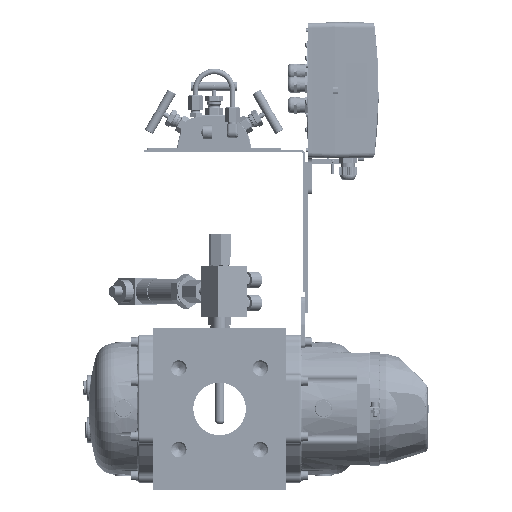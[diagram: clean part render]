
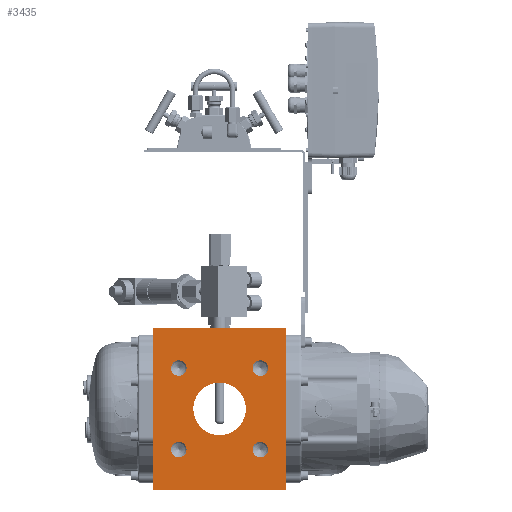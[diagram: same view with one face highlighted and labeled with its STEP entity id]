
A CAD part, front view. The second image highlights one B-rep face of the part: STEP entity #3435.
In plain terms, the highlighted planar face has unit normal (0, -1, 0).
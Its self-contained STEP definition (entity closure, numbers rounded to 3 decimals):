
#3435=ADVANCED_FACE('',(#281968,#281970,#281972,#281974,#281976,#281978),#281980,
.T.);
#281968=FACE_BOUND('',#281969,.T.);
#281969=EDGE_LOOP('',(#561739,#561740,#561741,#561742));
#281970=FACE_BOUND('',#281971,.T.);
#281971=EDGE_LOOP('',(#561743));
#281972=FACE_BOUND('',#281973,.T.);
#281973=EDGE_LOOP('',(#561744));
#281974=FACE_BOUND('',#281975,.T.);
#281975=EDGE_LOOP('',(#561745));
#281976=FACE_BOUND('',#281977,.T.);
#281977=EDGE_LOOP('',(#561746));
#281978=FACE_BOUND('',#281979,.T.);
#281979=EDGE_LOOP('',(#561747));
#281980=PLANE('',#281981);
#281981=AXIS2_PLACEMENT_3D('',#281982,#281983,#281984);
#281982=CARTESIAN_POINT('',(-72.5,-85.5,88.));
#281983=DIRECTION('',(0.,-1.,0.));
#281984=DIRECTION('',(0.,0.,-1.));
#561739=ORIENTED_EDGE('',*,*,#774949,.T.);
#561740=ORIENTED_EDGE('',*,*,#775023,.T.);
#561741=ORIENTED_EDGE('',*,*,#774990,.T.);
#561742=ORIENTED_EDGE('',*,*,#775024,.F.);
#561743=ORIENTED_EDGE('',*,*,#775025,.T.);
#561744=ORIENTED_EDGE('',*,*,#775026,.T.);
#561745=ORIENTED_EDGE('',*,*,#775027,.T.);
#561746=ORIENTED_EDGE('',*,*,#775028,.T.);
#561747=ORIENTED_EDGE('',*,*,#775029,.T.);
#774949=EDGE_CURVE('',#864562,#864560,#864563,.T.);
#774990=EDGE_CURVE('',#864641,#864639,#864642,.T.);
#775023=EDGE_CURVE('',#864560,#864641,#864693,.T.);
#775024=EDGE_CURVE('',#864562,#864639,#864694,.T.);
#775025=EDGE_CURVE('',#864695,#864695,#864696,.T.);
#775026=EDGE_CURVE('',#864697,#864697,#864698,.T.);
#775027=EDGE_CURVE('',#864699,#864699,#864700,.T.);
#775028=EDGE_CURVE('',#864701,#864701,#864702,.T.);
#775029=EDGE_CURVE('',#864703,#864703,#864704,.T.);
#864560=VERTEX_POINT('',#1014151);
#864562=VERTEX_POINT('',#1014155);
#864563=LINE('',#1014156,#1014157);
#864639=VERTEX_POINT('',#1014333);
#864641=VERTEX_POINT('',#1014337);
#864642=LINE('',#1014338,#1014339);
#864693=LINE('',#1014469,#1014470);
#864694=LINE('',#1014472,#1014473);
#864695=VERTEX_POINT('',#1014475);
#864696=CIRCLE('',#1014476,8.417);
#864697=VERTEX_POINT('',#1014480);
#864698=CIRCLE('',#1014481,8.417);
#864699=VERTEX_POINT('',#1014485);
#864700=CIRCLE('',#1014486,8.417);
#864701=VERTEX_POINT('',#1014490);
#864702=CIRCLE('',#1014491,28.5);
#864703=VERTEX_POINT('',#1014495);
#864704=CIRCLE('',#1014496,8.417);
#1014151=CARTESIAN_POINT('',(-72.5,-85.5,-88.));
#1014155=CARTESIAN_POINT('',(-72.5,-85.5,88.));
#1014156=CARTESIAN_POINT('',(-72.5,-85.5,88.));
#1014157=VECTOR('',#1014158,1.);
#1014158=DIRECTION('',(0.,0.,-1.));
#1014333=CARTESIAN_POINT('',(72.5,-85.5,88.));
#1014337=CARTESIAN_POINT('',(72.5,-85.5,-88.));
#1014338=CARTESIAN_POINT('',(72.5,-85.5,-88.));
#1014339=VECTOR('',#1014340,1.);
#1014340=DIRECTION('',(0.,0.,1.));
#1014469=CARTESIAN_POINT('',(-72.5,-85.5,-88.));
#1014470=VECTOR('',#1014471,1.);
#1014471=DIRECTION('',(1.,0.,0.));
#1014472=CARTESIAN_POINT('',(-72.5,-85.5,88.));
#1014473=VECTOR('',#1014474,1.);
#1014474=DIRECTION('',(1.,0.,0.));
#1014475=CARTESIAN_POINT('',(52.612,-85.5,44.194));
#1014476=AXIS2_PLACEMENT_3D('',#1014477,#1014478,#1014479);
#1014477=CARTESIAN_POINT('',(44.194,-85.5,44.194));
#1014478=DIRECTION('',(0.,1.,0.));
#1014479=DIRECTION('',(1.,0.,0.));
#1014480=CARTESIAN_POINT('',(52.612,-85.5,-44.194));
#1014481=AXIS2_PLACEMENT_3D('',#1014482,#1014483,#1014484);
#1014482=CARTESIAN_POINT('',(44.194,-85.5,-44.194));
#1014483=DIRECTION('',(0.,1.,0.));
#1014484=DIRECTION('',(1.,0.,0.));
#1014485=CARTESIAN_POINT('',(-35.777,-85.5,-44.194));
#1014486=AXIS2_PLACEMENT_3D('',#1014487,#1014488,#1014489);
#1014487=CARTESIAN_POINT('',(-44.194,-85.5,-44.194));
#1014488=DIRECTION('',(0.,1.,0.));
#1014489=DIRECTION('',(1.,0.,0.));
#1014490=CARTESIAN_POINT('',(-28.5,-85.5,0.));
#1014491=AXIS2_PLACEMENT_3D('',#1014492,#1014493,#1014494);
#1014492=CARTESIAN_POINT('',(0.,-85.5,0.));
#1014493=DIRECTION('',(0.,1.,0.));
#1014494=DIRECTION('',(-1.,0.,0.));
#1014495=CARTESIAN_POINT('',(-35.777,-85.5,44.194));
#1014496=AXIS2_PLACEMENT_3D('',#1014497,#1014498,#1014499);
#1014497=CARTESIAN_POINT('',(-44.194,-85.5,44.194));
#1014498=DIRECTION('',(0.,1.,0.));
#1014499=DIRECTION('',(1.,0.,0.));
